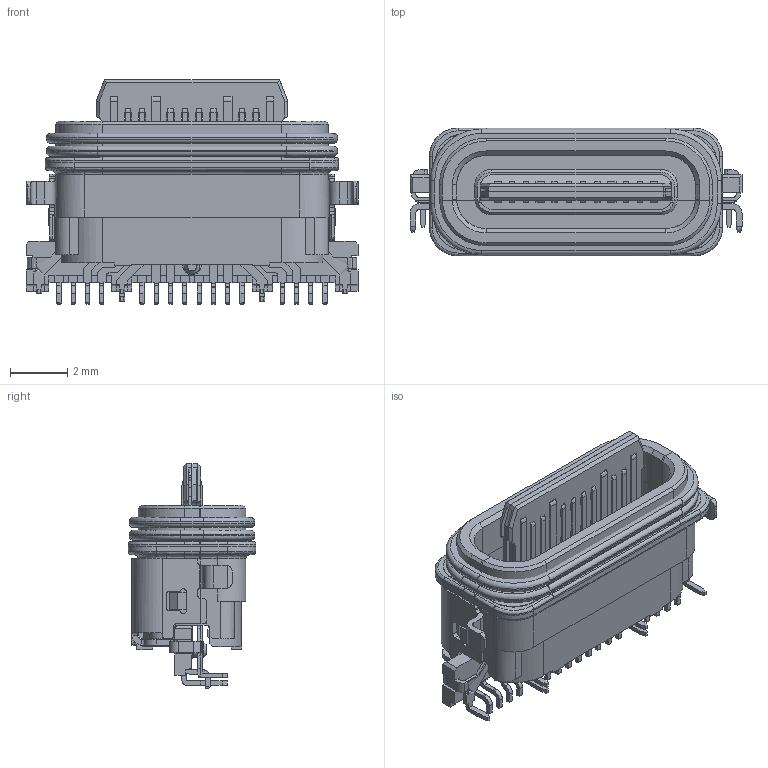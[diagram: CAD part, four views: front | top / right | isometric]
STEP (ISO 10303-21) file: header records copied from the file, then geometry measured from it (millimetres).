
FILE_DESCRIPTION (( 'STEP AP203' ), '1' );
FILE_NAME ('8976WP-C24C00RDB1NT-1130408.STEP', '2024-04-08T03:35:30', ( '' ), ( '' ), 'SwSTEP 2.0', 'SolidWorks 2019', '' );
FILE_SCHEMA (( 'CONFIG_CONTROL_DESIGN' ));
Length unit declared in the file: millimetre
Products named in the file (2): 8976WP-C24C00RDB1NT-1130408
Assembly tree (1 placements, depth 2):
  8976WP-C24C00RDB1NT-1130408
    8976WP-C24C00RDB1NT-1130408
Bounding box: 11.6 x 4.46 x 7.85 mm (x, y, z)
Surface area: 825.7 mm2 (no closed solid volume)
Topology: 0 solids, 48 shells, 2584 faces, 7834 edges, 5205 vertices
Faces by surface type: plane 1974, cylinder 482, bspline 59, cone 53, torus 16
Full cylindrical faces by diameter (mm): 0.4 x6, 0.5 x2, 0.55 x2, 0.75 x2
Entity records: 96847 total; most frequent: CARTESIAN_POINT 40122, ORIENTED_EDGE 14890, EDGE_CURVE 7817, B_SPLINE_CURVE_WITH_KNOTS 6454, DIRECTION 6431, VERTEX_POINT 5205, EDGE_LOOP 2705, FACE_OUTER_BOUND 2596
